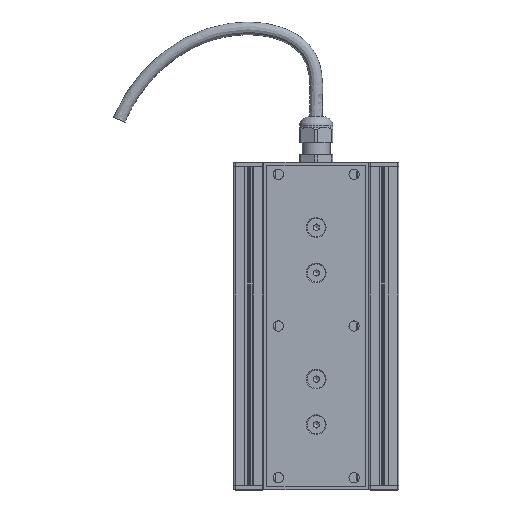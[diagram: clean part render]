
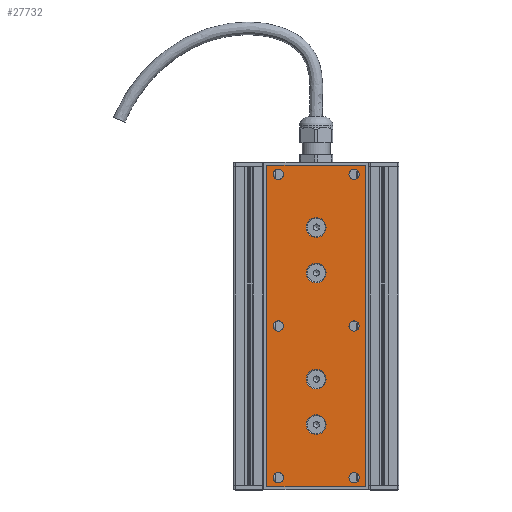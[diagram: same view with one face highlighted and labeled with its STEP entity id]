
A CAD part, top view. The second image highlights one B-rep face of the part: STEP entity #27732.
In plain terms, the highlighted planar face has unit normal (0, 0, 1).
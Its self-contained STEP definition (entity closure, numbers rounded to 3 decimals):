
#650=FACE_BOUND('',#9787,.T.);
#651=FACE_BOUND('',#9788,.T.);
#652=FACE_BOUND('',#9789,.T.);
#653=FACE_BOUND('',#9790,.T.);
#654=FACE_BOUND('',#9791,.T.);
#655=FACE_BOUND('',#9792,.T.);
#656=FACE_BOUND('',#9793,.T.);
#657=FACE_BOUND('',#9794,.T.);
#658=FACE_BOUND('',#9795,.T.);
#659=FACE_BOUND('',#9796,.T.);
#927=PLANE('',#30788);
#2230=LINE('',#45483,#5025);
#2233=LINE('',#45489,#5028);
#2236=LINE('',#45495,#5031);
#2239=LINE('',#45499,#5034);
#5025=VECTOR('',#35201,10.);
#5028=VECTOR('',#35206,10.);
#5031=VECTOR('',#35211,10.);
#5034=VECTOR('',#35216,10.);
#8438=FACE_OUTER_BOUND('',#9786,.T.);
#9786=EDGE_LOOP('',(#22474,#22475,#22476,#22477));
#9787=EDGE_LOOP('',(#22478));
#9788=EDGE_LOOP('',(#22479));
#9789=EDGE_LOOP('',(#22480));
#9790=EDGE_LOOP('',(#22481));
#9791=EDGE_LOOP('',(#22482));
#9792=EDGE_LOOP('',(#22483));
#9793=EDGE_LOOP('',(#22484));
#9794=EDGE_LOOP('',(#22485));
#9795=EDGE_LOOP('',(#22486));
#9796=EDGE_LOOP('',(#22487));
#11530=CIRCLE('',#30747,3.39);
#11532=CIRCLE('',#30750,3.39);
#11534=CIRCLE('',#30753,3.39);
#11536=CIRCLE('',#30756,3.39);
#11538=CIRCLE('',#30759,3.39);
#11540=CIRCLE('',#30762,3.39);
#11542=CIRCLE('',#30765,6.5);
#11545=CIRCLE('',#30770,6.5);
#11548=CIRCLE('',#30775,6.5);
#11551=CIRCLE('',#30780,6.5);
#13363=VERTEX_POINT('',#45401);
#13365=VERTEX_POINT('',#45407);
#13367=VERTEX_POINT('',#45413);
#13369=VERTEX_POINT('',#45419);
#13371=VERTEX_POINT('',#45425);
#13373=VERTEX_POINT('',#45431);
#13375=VERTEX_POINT('',#45437);
#13378=VERTEX_POINT('',#45447);
#13381=VERTEX_POINT('',#45457);
#13384=VERTEX_POINT('',#45467);
#13389=VERTEX_POINT('',#45480);
#13390=VERTEX_POINT('',#45482);
#13392=VERTEX_POINT('',#45488);
#13394=VERTEX_POINT('',#45494);
#17364=EDGE_CURVE('',#13363,#13363,#11530,.T.);
#17367=EDGE_CURVE('',#13365,#13365,#11532,.T.);
#17370=EDGE_CURVE('',#13367,#13367,#11534,.T.);
#17373=EDGE_CURVE('',#13369,#13369,#11536,.T.);
#17376=EDGE_CURVE('',#13371,#13371,#11538,.T.);
#17379=EDGE_CURVE('',#13373,#13373,#11540,.T.);
#17382=EDGE_CURVE('',#13375,#13375,#11542,.T.);
#17387=EDGE_CURVE('',#13378,#13378,#11545,.T.);
#17392=EDGE_CURVE('',#13381,#13381,#11548,.T.);
#17397=EDGE_CURVE('',#13384,#13384,#11551,.T.);
#17404=EDGE_CURVE('',#13390,#13389,#2230,.T.);
#17407=EDGE_CURVE('',#13392,#13390,#2233,.T.);
#17410=EDGE_CURVE('',#13394,#13392,#2236,.T.);
#17413=EDGE_CURVE('',#13389,#13394,#2239,.T.);
#22474=ORIENTED_EDGE('',*,*,#17413,.T.);
#22475=ORIENTED_EDGE('',*,*,#17410,.T.);
#22476=ORIENTED_EDGE('',*,*,#17407,.T.);
#22477=ORIENTED_EDGE('',*,*,#17404,.T.);
#22478=ORIENTED_EDGE('',*,*,#17364,.T.);
#22479=ORIENTED_EDGE('',*,*,#17367,.T.);
#22480=ORIENTED_EDGE('',*,*,#17370,.T.);
#22481=ORIENTED_EDGE('',*,*,#17373,.T.);
#22482=ORIENTED_EDGE('',*,*,#17376,.T.);
#22483=ORIENTED_EDGE('',*,*,#17379,.T.);
#22484=ORIENTED_EDGE('',*,*,#17382,.T.);
#22485=ORIENTED_EDGE('',*,*,#17387,.T.);
#22486=ORIENTED_EDGE('',*,*,#17392,.T.);
#22487=ORIENTED_EDGE('',*,*,#17397,.T.);
#27732=ADVANCED_FACE('',(#8438,#650,#651,#652,#653,#654,#655,#656,#657,
#658,#659),#927,.T.);
#30747=AXIS2_PLACEMENT_3D('',#45402,#35109,#35110);
#30750=AXIS2_PLACEMENT_3D('',#45408,#35116,#35117);
#30753=AXIS2_PLACEMENT_3D('',#45414,#35123,#35124);
#30756=AXIS2_PLACEMENT_3D('',#45420,#35130,#35131);
#30759=AXIS2_PLACEMENT_3D('',#45426,#35137,#35138);
#30762=AXIS2_PLACEMENT_3D('',#45432,#35144,#35145);
#30765=AXIS2_PLACEMENT_3D('',#45438,#35151,#35152);
#30770=AXIS2_PLACEMENT_3D('',#45448,#35163,#35164);
#30775=AXIS2_PLACEMENT_3D('',#45458,#35175,#35176);
#30780=AXIS2_PLACEMENT_3D('',#45468,#35187,#35188);
#30788=AXIS2_PLACEMENT_3D('',#45500,#35217,#35218);
#35109=DIRECTION('center_axis',(0.,0.,-1.));
#35110=DIRECTION('ref_axis',(1.,0.,0.));
#35116=DIRECTION('center_axis',(0.,0.,-1.));
#35117=DIRECTION('ref_axis',(1.,0.,0.));
#35123=DIRECTION('center_axis',(0.,0.,-1.));
#35124=DIRECTION('ref_axis',(1.,0.,0.));
#35130=DIRECTION('center_axis',(0.,0.,-1.));
#35131=DIRECTION('ref_axis',(1.,0.,0.));
#35137=DIRECTION('center_axis',(0.,0.,-1.));
#35138=DIRECTION('ref_axis',(1.,0.,0.));
#35144=DIRECTION('center_axis',(0.,0.,-1.));
#35145=DIRECTION('ref_axis',(1.,0.,0.));
#35151=DIRECTION('center_axis',(0.,0.,-1.));
#35152=DIRECTION('ref_axis',(1.,0.,0.));
#35163=DIRECTION('center_axis',(0.,0.,-1.));
#35164=DIRECTION('ref_axis',(1.,0.,0.));
#35175=DIRECTION('center_axis',(0.,0.,-1.));
#35176=DIRECTION('ref_axis',(1.,0.,0.));
#35187=DIRECTION('center_axis',(0.,0.,-1.));
#35188=DIRECTION('ref_axis',(1.,0.,0.));
#35201=DIRECTION('',(1.,0.,0.));
#35206=DIRECTION('',(0.,-1.,0.));
#35211=DIRECTION('',(-1.,0.,0.));
#35216=DIRECTION('',(0.,1.,0.));
#35217=DIRECTION('center_axis',(0.,0.,1.));
#35218=DIRECTION('ref_axis',(1.,0.,0.));
#45401=CARTESIAN_POINT('',(-28.39,100.,12.));
#45402=CARTESIAN_POINT('Origin',(-25.,100.,12.));
#45407=CARTESIAN_POINT('',(-28.39,0.,12.));
#45408=CARTESIAN_POINT('Origin',(-25.,0.,12.));
#45413=CARTESIAN_POINT('',(-28.39,-100.,12.));
#45414=CARTESIAN_POINT('Origin',(-25.,-100.,12.));
#45419=CARTESIAN_POINT('',(21.61,-100.,12.));
#45420=CARTESIAN_POINT('Origin',(25.,-100.,12.));
#45425=CARTESIAN_POINT('',(21.61,0.,12.));
#45426=CARTESIAN_POINT('Origin',(25.,0.,12.));
#45431=CARTESIAN_POINT('',(21.61,100.,12.));
#45432=CARTESIAN_POINT('Origin',(25.,100.,12.));
#45437=CARTESIAN_POINT('',(-6.5,-35.,12.));
#45438=CARTESIAN_POINT('Origin',(0.,-35.,12.));
#45447=CARTESIAN_POINT('',(-6.5,65.,12.));
#45448=CARTESIAN_POINT('Origin',(0.,65.,12.));
#45457=CARTESIAN_POINT('',(-6.5,35.,12.));
#45458=CARTESIAN_POINT('Origin',(0.,35.,12.));
#45467=CARTESIAN_POINT('',(-6.5,-65.,12.));
#45468=CARTESIAN_POINT('Origin',(0.,-65.,12.));
#45480=CARTESIAN_POINT('',(32.5,-106.,12.));
#45482=CARTESIAN_POINT('',(-32.5,-106.,12.));
#45483=CARTESIAN_POINT('',(-32.5,-106.,12.));
#45488=CARTESIAN_POINT('',(-32.5,106.,12.));
#45489=CARTESIAN_POINT('',(-32.5,106.,12.));
#45494=CARTESIAN_POINT('',(32.5,106.,12.));
#45495=CARTESIAN_POINT('',(32.5,106.,12.));
#45499=CARTESIAN_POINT('',(32.5,-106.,12.));
#45500=CARTESIAN_POINT('Origin',(0.,0.,12.));
